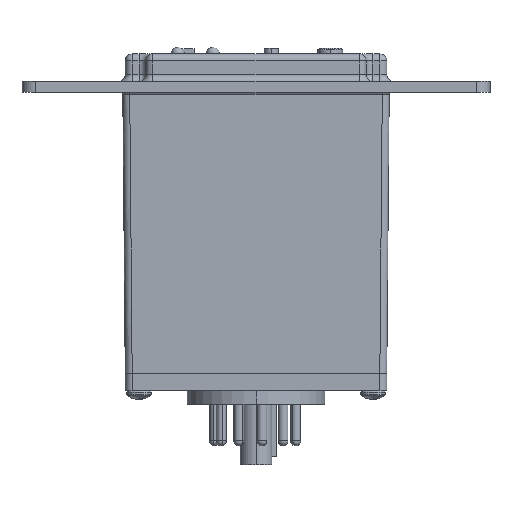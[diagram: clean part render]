
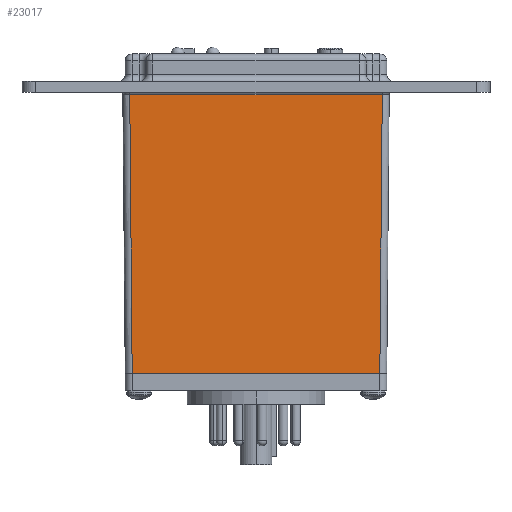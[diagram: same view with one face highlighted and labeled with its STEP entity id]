
A CAD part, left-side view. The second image highlights one B-rep face of the part: STEP entity #23017.
In plain terms, the highlighted planar face has unit normal (-1, 0, -0.009).
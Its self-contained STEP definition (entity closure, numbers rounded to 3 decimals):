
#214 = EDGE_CURVE ( 'NONE', #33082, #35438, #45463, .T. ) ;
#265 = ORIENTED_EDGE ( 'NONE', *, *, #2684, .T. ) ;
#2684 = EDGE_CURVE ( 'NONE', #35438, #39034, #47744, .T. ) ;
#2873 = DIRECTION ( 'NONE',  ( -0.009, 0., 1. ) ) ;
#4381 = CARTESIAN_POINT ( 'NONE',  ( -22.225, -28.562, 0. ) ) ;
#4761 = ORIENTED_EDGE ( 'NONE', *, *, #31359, .T. ) ;
#10377 = FACE_OUTER_BOUND ( 'NONE', #20296, .T. ) ;
#10894 = DIRECTION ( 'NONE',  ( -0.009, -0.009, 1. ) ) ;
#10905 = CARTESIAN_POINT ( 'NONE',  ( -22.786, 29.128, 64.266 ) ) ;
#11448 = VECTOR ( 'NONE', #29364, 1000. ) ;
#13015 = VECTOR ( 'NONE', #10894, 1000. ) ;
#13890 = VECTOR ( 'NONE', #36883, 1000. ) ;
#15564 = LINE ( 'NONE', #22122, #13890 ) ;
#18300 = ORIENTED_EDGE ( 'NONE', *, *, #214, .T. ) ;
#19154 = ORIENTED_EDGE ( 'NONE', *, *, #43436, .T. ) ;
#20296 = EDGE_LOOP ( 'NONE', ( #265, #4761, #19154, #18300 ) ) ;
#21289 = CARTESIAN_POINT ( 'NONE',  ( -22.225, 30.162, 0. ) ) ;
#22122 = CARTESIAN_POINT ( 'NONE',  ( -22.225, 28.562, 0.014 ) ) ;
#22168 = VERTEX_POINT ( 'NONE', #30525 ) ;
#22677 = DIRECTION ( 'NONE',  ( 0., -1., 0. ) ) ;
#23017 = ADVANCED_FACE ( 'NONE', ( #10377 ), #43808, .T. ) ;
#23396 = CARTESIAN_POINT ( 'NONE',  ( -22.225, 30.162, 0. ) ) ;
#23646 = CARTESIAN_POINT ( 'NONE',  ( -22.786, -29.123, 64.266 ) ) ;
#29364 = DIRECTION ( 'NONE',  ( 0., 1., 0. ) ) ;
#29576 = CARTESIAN_POINT ( 'NONE',  ( -22.221, -28.558, -0.512 ) ) ;
#30525 = CARTESIAN_POINT ( 'NONE',  ( -22.786, 29.123, 64.266 ) ) ;
#31359 = EDGE_CURVE ( 'NONE', #39034, #22168, #33196, .T. ) ;
#31982 = DIRECTION ( 'NONE',  ( -1., 0., -0.009 ) ) ;
#33082 = VERTEX_POINT ( 'NONE', #35591 ) ;
#33196 = LINE ( 'NONE', #10905, #11448 ) ;
#35438 = VERTEX_POINT ( 'NONE', #4381 ) ;
#35591 = CARTESIAN_POINT ( 'NONE',  ( -22.225, 28.562, 0. ) ) ;
#36121 = AXIS2_PLACEMENT_3D ( 'NONE', #21289, #31982, #2873 ) ;
#36883 = DIRECTION ( 'NONE',  ( 0.009, -0.009, -1. ) ) ;
#39034 = VERTEX_POINT ( 'NONE', #23646 ) ;
#43436 = EDGE_CURVE ( 'NONE', #22168, #33082, #15564, .T. ) ;
#43808 = PLANE ( 'NONE',  #36121 ) ;
#45463 = LINE ( 'NONE', #23396, #46943 ) ;
#46943 = VECTOR ( 'NONE', #22677, 1000. ) ;
#47744 = LINE ( 'NONE', #29576, #13015 ) ;
